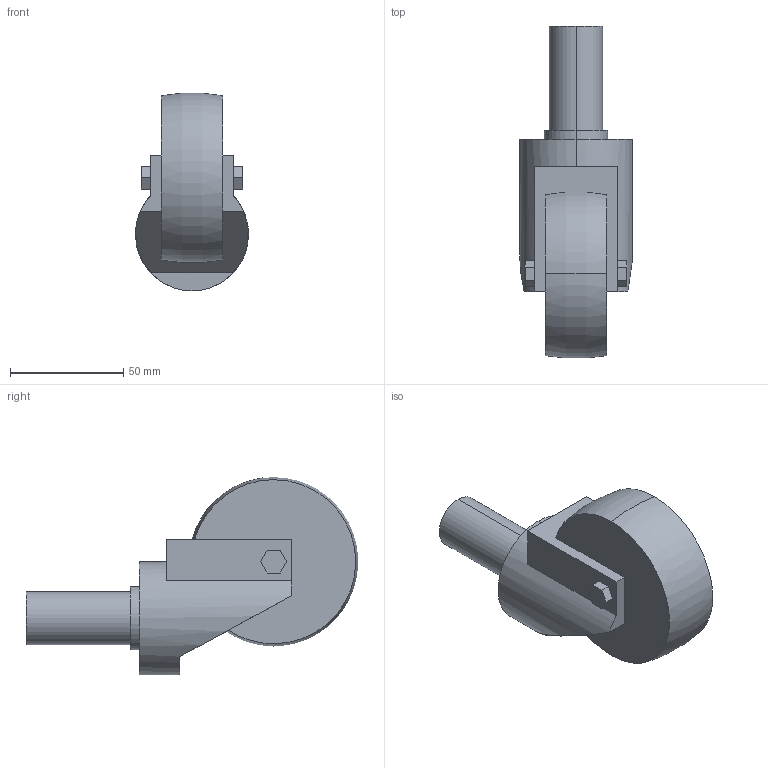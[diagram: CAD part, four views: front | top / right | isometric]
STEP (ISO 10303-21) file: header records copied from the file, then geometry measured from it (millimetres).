
FILE_DESCRIPTION (( 'STEP AP214' ), '1' );
FILE_NAME ('SGR75 CTP.step', '2024-02-15T04:36:27', ( 'catia' ), ( 'HP Inc.' ), 'SwSTEP 2.0', 'SolidWorks 2021', '' );
FILE_SCHEMA (( 'AUTOMOTIVE_DESIGN' ));
Length unit declared in the file: millimetre
Products named in the file (1): SGR75 CTP
Bounding box: 50 x 146.78 x 87.36 mm (x, y, z)
Volume: 218342.4 mm3; surface area: 26858.2 mm2
Topology: 1 solids, 1 shells, 36 faces, 90 edges, 60 vertices
Faces by surface type: plane 27, cylinder 6, torus 3
Entity records: 1131 total; most frequent: CARTESIAN_POINT 216, DIRECTION 184, ORIENTED_EDGE 180, EDGE_CURVE 90, LINE 62, VECTOR 62, AXIS2_PLACEMENT_3D 61, VERTEX_POINT 60
